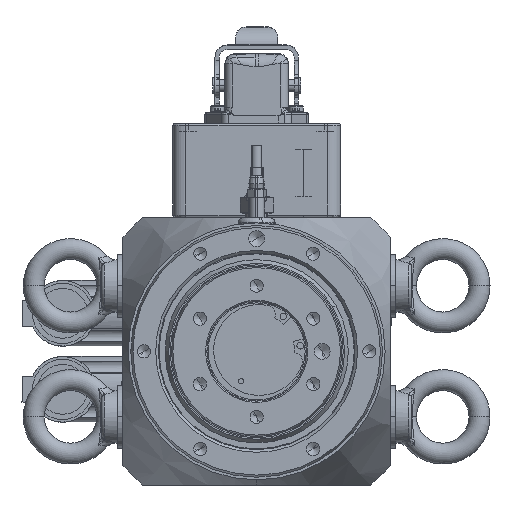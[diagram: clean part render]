
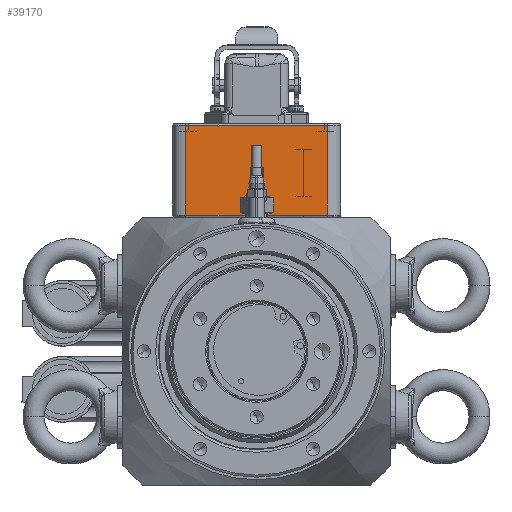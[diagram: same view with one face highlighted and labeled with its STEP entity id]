
A CAD part, front view. The second image highlights one B-rep face of the part: STEP entity #39170.
In plain terms, the highlighted planar face has unit normal (0, -1, 0).
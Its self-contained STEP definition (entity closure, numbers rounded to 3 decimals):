
#8723 = CARTESIAN_POINT ( 'NONE',  ( -2.518, 516.5, 84.264 ) ) ;
#12268 = CARTESIAN_POINT ( 'NONE',  ( -29.518, 516.5, 50.264 ) ) ;
#15451 = CARTESIAN_POINT ( 'NONE',  ( 24.482, 516.5, 62.264 ) ) ;
#19037 = DIRECTION ( 'NONE',  ( 0., -1., 0. ) ) ;
#19876 = ORIENTED_EDGE ( 'NONE', *, *, #130746, .T. ) ;
#21609 = CARTESIAN_POINT ( 'NONE',  ( -29.518, 516.5, 62.264 ) ) ;
#30943 = EDGE_CURVE ( 'NONE', #33539, #116237, #65405, .T. ) ;
#33539 = VERTEX_POINT ( 'NONE', #48847 ) ;
#38581 = EDGE_CURVE ( 'NONE', #33539, #112770, #66946, .T. ) ;
#39170 = ADVANCED_FACE ( 'NONE', ( #101568 ), #51124, .T. ) ;
#42542 = CARTESIAN_POINT ( 'NONE',  ( -29.518, 516.5, 84.264 ) ) ;
#44010 = CARTESIAN_POINT ( 'NONE',  ( -29.663, 516.5, 50.264 ) ) ;
#45213 = VECTOR ( 'NONE', #106417, 1000. ) ;
#48847 = CARTESIAN_POINT ( 'NONE',  ( 24.482, 516.5, 50.264 ) ) ;
#51124 = PLANE ( 'NONE',  #105963 ) ;
#55643 = EDGE_CURVE ( 'NONE', #112770, #105637, #75196, .T. ) ;
#60541 = DIRECTION ( 'NONE',  ( 1., 0., 0. ) ) ;
#63912 = VECTOR ( 'NONE', #118203, 1000. ) ;
#65405 = LINE ( 'NONE', #44010, #45213 ) ;
#66946 = LINE ( 'NONE', #15451, #84211 ) ;
#75196 = LINE ( 'NONE', #8723, #63912 ) ;
#80920 = ORIENTED_EDGE ( 'NONE', *, *, #55643, .T. ) ;
#82560 = DIRECTION ( 'NONE',  ( 0., 0., -1. ) ) ;
#84211 = VECTOR ( 'NONE', #119967, 1000. ) ;
#94453 = ORIENTED_EDGE ( 'NONE', *, *, #38581, .T. ) ;
#101568 = FACE_OUTER_BOUND ( 'NONE', #110101, .T. ) ;
#105637 = VERTEX_POINT ( 'NONE', #42542 ) ;
#105963 = AXIS2_PLACEMENT_3D ( 'NONE', #109609, #19037, #60541 ) ;
#106417 = DIRECTION ( 'NONE',  ( -1., 0., 0. ) ) ;
#109357 = VECTOR ( 'NONE', #82560, 1000. ) ;
#109609 = CARTESIAN_POINT ( 'NONE',  ( -2.518, 516.5, 62.264 ) ) ;
#110101 = EDGE_LOOP ( 'NONE', ( #80920, #19876, #124626, #94453 ) ) ;
#110366 = CARTESIAN_POINT ( 'NONE',  ( 24.482, 516.5, 84.264 ) ) ;
#112770 = VERTEX_POINT ( 'NONE', #110366 ) ;
#116237 = VERTEX_POINT ( 'NONE', #12268 ) ;
#118203 = DIRECTION ( 'NONE',  ( -1., 0., 0. ) ) ;
#119967 = DIRECTION ( 'NONE',  ( 0., 0., 1. ) ) ;
#124626 = ORIENTED_EDGE ( 'NONE', *, *, #30943, .F. ) ;
#125418 = LINE ( 'NONE', #21609, #109357 ) ;
#130746 = EDGE_CURVE ( 'NONE', #105637, #116237, #125418, .T. ) ;
